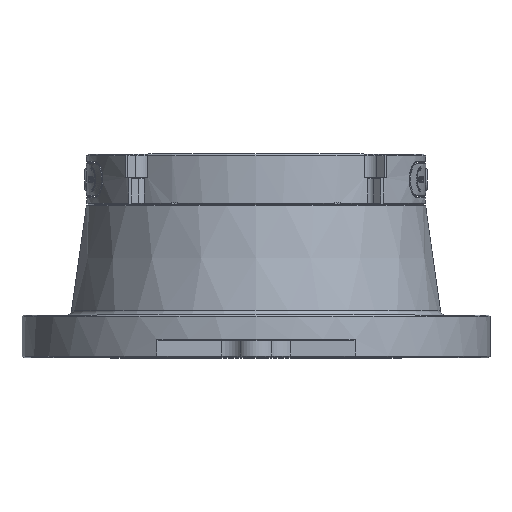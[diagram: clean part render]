
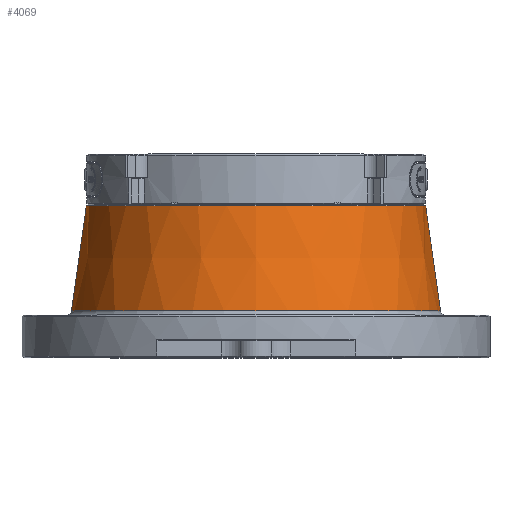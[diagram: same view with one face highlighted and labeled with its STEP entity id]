
A CAD part, top view. The second image highlights one B-rep face of the part: STEP entity #4069.
In plain terms, the highlighted conical face has half-angle 8 degrees and reference radius 104.421 mm.
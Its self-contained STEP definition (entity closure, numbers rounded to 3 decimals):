
#842=DIRECTION('',(0.139,0.99,0.));
#843=VECTOR('',#842,62.531);
#844=CARTESIAN_POINT('',(-108.772,27.582,0.));
#845=LINE('',#844,#843);
#851=DIRECTION('',(-0.139,0.99,0.));
#852=VECTOR('',#851,62.531);
#853=CARTESIAN_POINT('',(108.772,27.582,
0.));
#854=LINE('',#853,#852);
#1117=CARTESIAN_POINT('',(0.,89.505,0.));
#1118=DIRECTION('',(0.,1.,0.));
#1119=DIRECTION('',(-1.,0.,0.));
#1120=AXIS2_PLACEMENT_3D('',#1117,#1118,#1119);
#1122=CARTESIAN_POINT('',(0.,27.582,0.));
#1123=DIRECTION('',(0.,-1.,0.));
#1124=DIRECTION('',(1.,0.,0.));
#1125=AXIS2_PLACEMENT_3D('',#1122,#1123,#1124);
#2300=CARTESIAN_POINT('',(-108.772,27.582,
0.));
#2301=CARTESIAN_POINT('',(108.772,27.582,
0.));
#2302=VERTEX_POINT('',#2300);
#2303=VERTEX_POINT('',#2301);
#2588=CARTESIAN_POINT('',(-100.07,89.505,
0.));
#2589=CARTESIAN_POINT('',(100.07,89.505,
0.));
#2590=VERTEX_POINT('',#2588);
#2591=VERTEX_POINT('',#2589);
#4057=CARTESIAN_POINT('',(0.,58.544,0.));
#4058=DIRECTION('',(0.,-1.,0.));
#4059=DIRECTION('',(-1.,0.,0.));
#4060=AXIS2_PLACEMENT_3D('',#4057,#4058,#4059);
#4061=CONICAL_SURFACE('',#4060,104.421,8.);
#4062=ORIENTED_EDGE('',*,*,#4051,.T.);
#4063=ORIENTED_EDGE('',*,*,#3621,.F.);
#4065=ORIENTED_EDGE('',*,*,#4064,.T.);
#4066=ORIENTED_EDGE('',*,*,#3618,.T.);
#4067=EDGE_LOOP('',(#4062,#4063,#4065,#4066));
#4068=FACE_OUTER_BOUND('',#4067,.F.);
#4069=ADVANCED_FACE('',(#4068),#4061,.T.);
#1121=CIRCLE('',#1120,100.07);
#1126=CIRCLE('',#1125,108.772);
#3618=EDGE_CURVE('',#2302,#2590,#845,.T.);
#3621=EDGE_CURVE('',#2303,#2591,#854,.T.);
#4051=EDGE_CURVE('',#2590,#2591,#1121,.T.);
#4064=EDGE_CURVE('',#2303,#2302,#1126,.T.);
